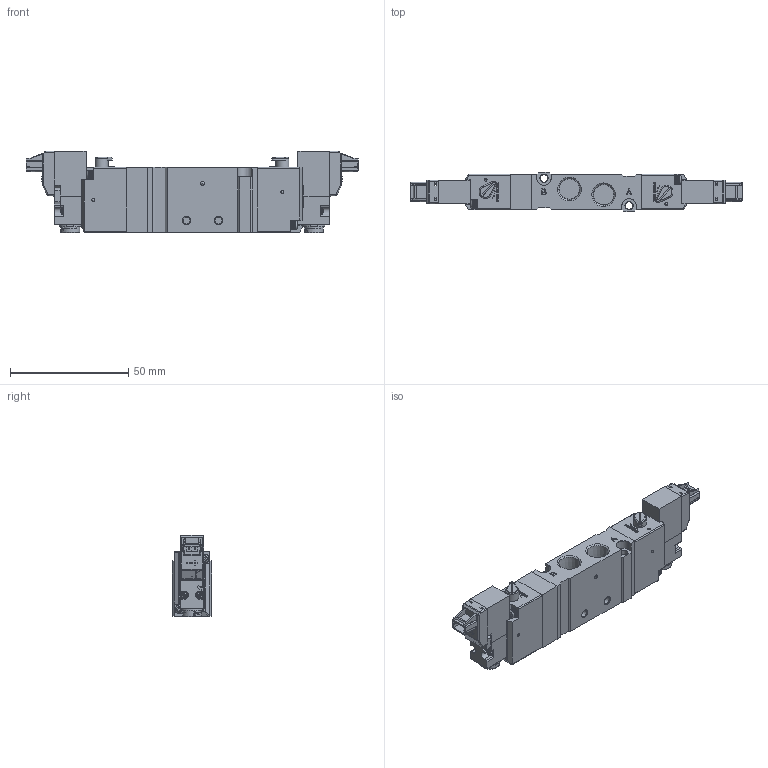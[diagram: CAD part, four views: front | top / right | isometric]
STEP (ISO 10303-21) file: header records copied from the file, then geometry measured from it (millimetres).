
FILE_DESCRIPTION(/* description */ (''),/* implementation_level */ '2;1');
FILE_NAME(/* name */ '\\JPN442FGSVGIJ\Gijyutu\技術グループ\Winovation\Winovation Projects\ADEX Valve in-line\ADEX Plus 3D CAD\P2A12RS\P2A12R※35-1P-M5_Shrinkwrap_1.stp',/* time_stamp */ '2015-01-05T16:32:17+09:00',/* author */ ('hm161442'),/* organization */ (''),/* preprocessor_version */ 'ST-DEVELOPER v15.2',/* originating_system */ 'Autodesk Inventor 2014',/* authorisation */ '');
FILE_SCHEMA (('AUTOMOTIVE_DESIGN { 1 0 10303 214 3 1 1 }'));
Products named in the file (1): P2A12R※35-1P-M5_Shrinkwrap_1
Bounding box: 140.4 x 16.6 x 34.6 mm (x, y, z)
Volume: 42922.3 mm3; surface area: 18161.2 mm2
Topology: 1 solids, 1 shells, 1781 faces, 4639 edges, 2921 vertices
Faces by surface type: plane 1083, cylinder 351, bspline 124, cone 88, torus 72, sphere 63
Full cylindrical faces by diameter (mm): 1 x2, 1.3 x10, 1.7 x1, 2 x4, 2.15 x2, 2.5 x2, 2.7 x2, 2.8 x2, 3 x2, 3.5 x4, 3.8 x4, 4.4 x2, 4.5 x2, 5.5 x2, 8 x2, 8.1 x2
Entity records: 61763 total; most frequent: CARTESIAN_POINT 17925, ORIENTED_EDGE 8856, DIRECTION 8407, EDGE_CURVE 4428, VERTEX_POINT 2849, AXIS2_PLACEMENT_3D 2817, LINE 2773, VECTOR 2773
